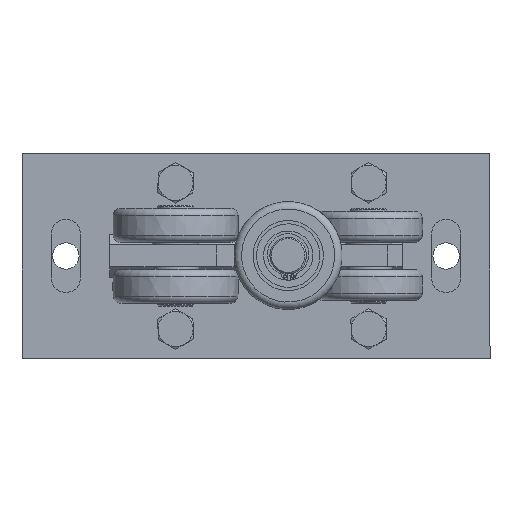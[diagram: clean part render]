
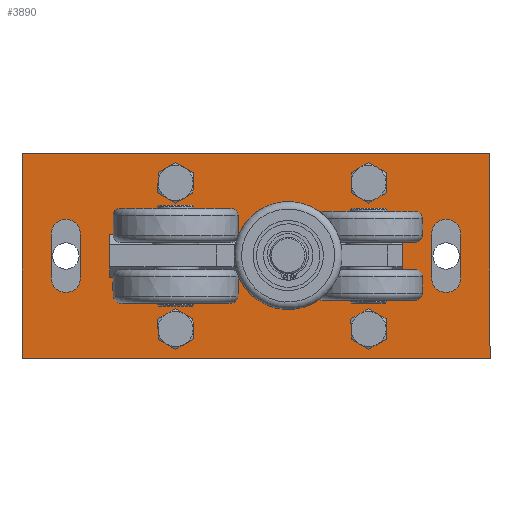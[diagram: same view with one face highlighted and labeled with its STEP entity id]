
A CAD part, top view. The second image highlights one B-rep face of the part: STEP entity #3890.
In plain terms, the highlighted planar face has unit normal (0, 0, 1).
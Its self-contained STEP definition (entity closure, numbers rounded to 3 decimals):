
#329=FACE_BOUND('',#1185,.T.);
#330=FACE_BOUND('',#1186,.T.);
#331=FACE_BOUND('',#1187,.T.);
#332=FACE_BOUND('',#1188,.T.);
#333=FACE_BOUND('',#1189,.T.);
#334=FACE_BOUND('',#1190,.T.);
#517=CIRCLE('',#4230,6.918);
#519=CIRCLE('',#4233,6.918);
#521=CIRCLE('',#4236,6.918);
#523=CIRCLE('',#4239,6.918);
#525=CIRCLE('',#4242,10.);
#527=CIRCLE('',#4246,10.);
#529=CIRCLE('',#4250,10.);
#531=CIRCLE('',#4254,10.);
#869=FACE_OUTER_BOUND('',#1184,.T.);
#1184=EDGE_LOOP('',(#2966,#2967,#2968,#2969));
#1185=EDGE_LOOP('',(#2970));
#1186=EDGE_LOOP('',(#2971));
#1187=EDGE_LOOP('',(#2972));
#1188=EDGE_LOOP('',(#2973));
#1189=EDGE_LOOP('',(#2974,#2975,#2976,#2977));
#1190=EDGE_LOOP('',(#2978,#2979,#2980,#2981));
#1461=LINE('',#17274,#1592);
#1465=LINE('',#17285,#1596);
#1469=LINE('',#17298,#1600);
#1473=LINE('',#17309,#1604);
#1475=LINE('',#17314,#1606);
#1479=LINE('',#17322,#1610);
#1482=LINE('',#17328,#1613);
#1485=LINE('',#17333,#1616);
#1592=VECTOR('',#4978,30.);
#1596=VECTOR('',#4990,30.);
#1600=VECTOR('',#5002,30.);
#1604=VECTOR('',#5014,30.);
#1606=VECTOR('',#5018,140.);
#1610=VECTOR('',#5024,320.);
#1613=VECTOR('',#5029,140.);
#1616=VECTOR('',#5034,320.);
#1919=VERTEX_POINT('',#17244);
#1921=VERTEX_POINT('',#17249);
#1923=VERTEX_POINT('',#17254);
#1925=VERTEX_POINT('',#17259);
#1927=VERTEX_POINT('',#17264);
#1928=VERTEX_POINT('',#17265);
#1931=VERTEX_POINT('',#17273);
#1933=VERTEX_POINT('',#17279);
#1935=VERTEX_POINT('',#17288);
#1936=VERTEX_POINT('',#17289);
#1939=VERTEX_POINT('',#17297);
#1941=VERTEX_POINT('',#17303);
#1943=VERTEX_POINT('',#17312);
#1944=VERTEX_POINT('',#17313);
#1947=VERTEX_POINT('',#17321);
#1949=VERTEX_POINT('',#17327);
#2306=EDGE_CURVE('',#1919,#1919,#517,.T.);
#2308=EDGE_CURVE('',#1921,#1921,#519,.T.);
#2310=EDGE_CURVE('',#1923,#1923,#521,.T.);
#2312=EDGE_CURVE('',#1925,#1925,#523,.T.);
#2314=EDGE_CURVE('',#1927,#1928,#525,.T.);
#2318=EDGE_CURVE('',#1928,#1931,#1461,.T.);
#2321=EDGE_CURVE('',#1931,#1933,#527,.T.);
#2324=EDGE_CURVE('',#1933,#1927,#1465,.T.);
#2326=EDGE_CURVE('',#1935,#1936,#529,.T.);
#2330=EDGE_CURVE('',#1936,#1939,#1469,.T.);
#2333=EDGE_CURVE('',#1939,#1941,#531,.T.);
#2336=EDGE_CURVE('',#1941,#1935,#1473,.T.);
#2338=EDGE_CURVE('',#1943,#1944,#1475,.T.);
#2342=EDGE_CURVE('',#1944,#1947,#1479,.T.);
#2345=EDGE_CURVE('',#1947,#1949,#1482,.T.);
#2348=EDGE_CURVE('',#1949,#1943,#1485,.T.);
#2966=ORIENTED_EDGE('',*,*,#2338,.F.);
#2967=ORIENTED_EDGE('',*,*,#2348,.F.);
#2968=ORIENTED_EDGE('',*,*,#2345,.F.);
#2969=ORIENTED_EDGE('',*,*,#2342,.F.);
#2970=ORIENTED_EDGE('',*,*,#2306,.T.);
#2971=ORIENTED_EDGE('',*,*,#2308,.T.);
#2972=ORIENTED_EDGE('',*,*,#2310,.T.);
#2973=ORIENTED_EDGE('',*,*,#2312,.T.);
#2974=ORIENTED_EDGE('',*,*,#2314,.T.);
#2975=ORIENTED_EDGE('',*,*,#2318,.T.);
#2976=ORIENTED_EDGE('',*,*,#2321,.T.);
#2977=ORIENTED_EDGE('',*,*,#2324,.T.);
#2978=ORIENTED_EDGE('',*,*,#2326,.T.);
#2979=ORIENTED_EDGE('',*,*,#2330,.T.);
#2980=ORIENTED_EDGE('',*,*,#2333,.T.);
#2981=ORIENTED_EDGE('',*,*,#2336,.T.);
#3723=PLANE('',#4261);
#3890=ADVANCED_FACE('',(#869,#329,#330,#331,#332,#333,#334),#3723,.T.);
#4230=AXIS2_PLACEMENT_3D('',#17245,#4946,#4947);
#4233=AXIS2_PLACEMENT_3D('',#17250,#4952,#4953);
#4236=AXIS2_PLACEMENT_3D('',#17255,#4958,#4959);
#4239=AXIS2_PLACEMENT_3D('',#17260,#4964,#4965);
#4242=AXIS2_PLACEMENT_3D('',#17266,#4970,#4971);
#4246=AXIS2_PLACEMENT_3D('',#17280,#4983,#4984);
#4250=AXIS2_PLACEMENT_3D('',#17290,#4994,#4995);
#4254=AXIS2_PLACEMENT_3D('',#17304,#5007,#5008);
#4261=AXIS2_PLACEMENT_3D('',#17335,#5036,#5037);
#4946=DIRECTION('center_axis',(0.,0.,-1.));
#4947=DIRECTION('ref_axis',(1.,0.,0.));
#4952=DIRECTION('center_axis',(0.,0.,-1.));
#4953=DIRECTION('ref_axis',(1.,0.,0.));
#4958=DIRECTION('center_axis',(0.,0.,-1.));
#4959=DIRECTION('ref_axis',(1.,0.,0.));
#4964=DIRECTION('center_axis',(0.,0.,-1.));
#4965=DIRECTION('ref_axis',(1.,0.,0.));
#4970=DIRECTION('center_axis',(0.,0.,-1.));
#4971=DIRECTION('ref_axis',(1.,0.,0.));
#4978=DIRECTION('',(0.,-1.,0.));
#4983=DIRECTION('center_axis',(0.,0.,-1.));
#4984=DIRECTION('ref_axis',(-1.,0.,0.));
#4990=DIRECTION('',(0.,1.,0.));
#4994=DIRECTION('center_axis',(0.,0.,-1.));
#4995=DIRECTION('ref_axis',(1.,0.,0.));
#5002=DIRECTION('',(0.,-1.,0.));
#5007=DIRECTION('center_axis',(0.,0.,-1.));
#5008=DIRECTION('ref_axis',(-1.,0.,0.));
#5014=DIRECTION('',(0.,1.,0.));
#5018=DIRECTION('',(0.,-1.,0.));
#5024=DIRECTION('',(-1.,0.,0.));
#5029=DIRECTION('',(0.,1.,0.));
#5034=DIRECTION('',(1.,0.,0.));
#5036=DIRECTION('center_axis',(0.,0.,1.));
#5037=DIRECTION('ref_axis',(1.,0.,0.));
#17244=CARTESIAN_POINT('',(-70.083,-50.,15.));
#17245=CARTESIAN_POINT('Origin',(-77.,-50.,15.));
#17249=CARTESIAN_POINT('',(61.918,-50.,15.));
#17250=CARTESIAN_POINT('Origin',(55.,-50.,15.));
#17254=CARTESIAN_POINT('',(61.918,50.,15.));
#17255=CARTESIAN_POINT('Origin',(55.,50.,15.));
#17259=CARTESIAN_POINT('',(-70.083,50.,15.));
#17260=CARTESIAN_POINT('Origin',(-77.,50.,15.));
#17264=CARTESIAN_POINT('',(120.,15.,15.));
#17265=CARTESIAN_POINT('',(140.,15.,15.));
#17266=CARTESIAN_POINT('Origin',(130.,15.,15.));
#17273=CARTESIAN_POINT('',(140.,-15.,15.));
#17274=CARTESIAN_POINT('',(140.,7.5,15.));
#17279=CARTESIAN_POINT('',(120.,-15.,15.));
#17280=CARTESIAN_POINT('Origin',(130.,-15.,15.));
#17285=CARTESIAN_POINT('',(120.,-7.5,15.));
#17288=CARTESIAN_POINT('',(-140.,15.,15.));
#17289=CARTESIAN_POINT('',(-120.,15.,15.));
#17290=CARTESIAN_POINT('Origin',(-130.,15.,15.));
#17297=CARTESIAN_POINT('',(-120.,-15.,15.));
#17298=CARTESIAN_POINT('',(-120.,7.5,15.));
#17303=CARTESIAN_POINT('',(-140.,-15.,15.));
#17304=CARTESIAN_POINT('Origin',(-130.,-15.,15.));
#17309=CARTESIAN_POINT('',(-140.,-7.5,15.));
#17312=CARTESIAN_POINT('',(160.,70.,15.));
#17313=CARTESIAN_POINT('',(160.,-70.,15.));
#17314=CARTESIAN_POINT('',(160.,70.,15.));
#17321=CARTESIAN_POINT('',(-160.,-70.,15.));
#17322=CARTESIAN_POINT('',(160.,-70.,15.));
#17327=CARTESIAN_POINT('',(-160.,70.,15.));
#17328=CARTESIAN_POINT('',(-160.,-70.,15.));
#17333=CARTESIAN_POINT('',(-160.,70.,15.));
#17335=CARTESIAN_POINT('Origin',(0.,0.,
15.));
